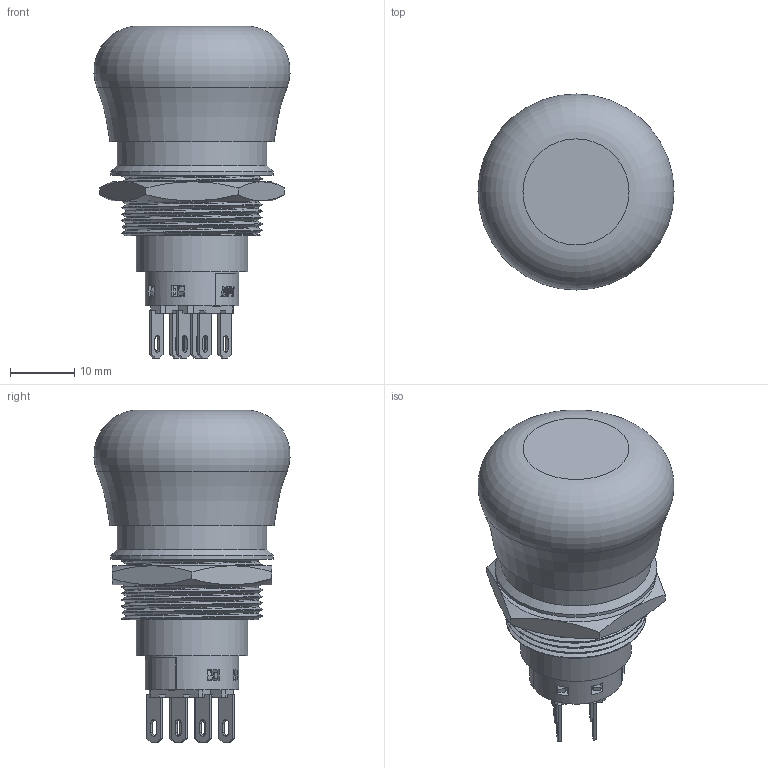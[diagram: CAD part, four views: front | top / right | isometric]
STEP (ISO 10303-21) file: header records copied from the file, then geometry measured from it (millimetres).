
FILE_DESCRIPTION(/* description */ (''),/* implementation_level */ '2;1');
FILE_NAME(/* name */ 'FM22N-SFP-22Z.stp',/* time_stamp */ '2020-08-04T17:11:45+08:00',/* author */ (''),/* organization */ (''),/* preprocessor_version */ 'ST-DEVELOPER v16.7',/* originating_system */ 'SIEMENS PLM Software NX 12.0',/* authorisation */ '');
FILE_SCHEMA (('AUTOMOTIVE_DESIGN { 1 0 10303 214 3 1 1 1 }'));
Length unit declared in the file: millimetre
Products named in the file (1): Admi4F983F75j3ip
Bounding box: 30.48 x 30.48 x 51.62 mm (x, y, z)
Surface area: 14971.8 mm2
Topology: 4 solids, 5 shells, 1198 faces, 3434 edges, 2235 vertices
Faces by surface type: plane 906, cylinder 160, bspline 97, cone 28, extrusion 4, torus 3
Full cylindrical faces by diameter (mm): 1 x1, 14.5 x1, 14.6 x1, 15 x1, 15.5 x1, 15.7 x1, 16.2 x1, 16.4 x1, 16.5 x4, 17.3 x2, 17.5 x1, 17.8 x1, 23.3 x1, 24 x1, 25.2 x1
Entity records: 66962 total; most frequent: CARTESIAN_POINT 28683, ORIENTED_EDGE 6770, DIRECTION 5417, EDGE_CURVE 3385, VECTOR 2597, LINE 2593, VERTEX_POINT 2225, AXIS2_PLACEMENT_3D 1410
